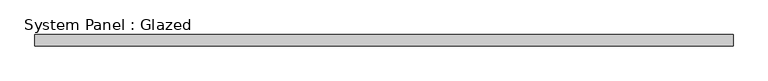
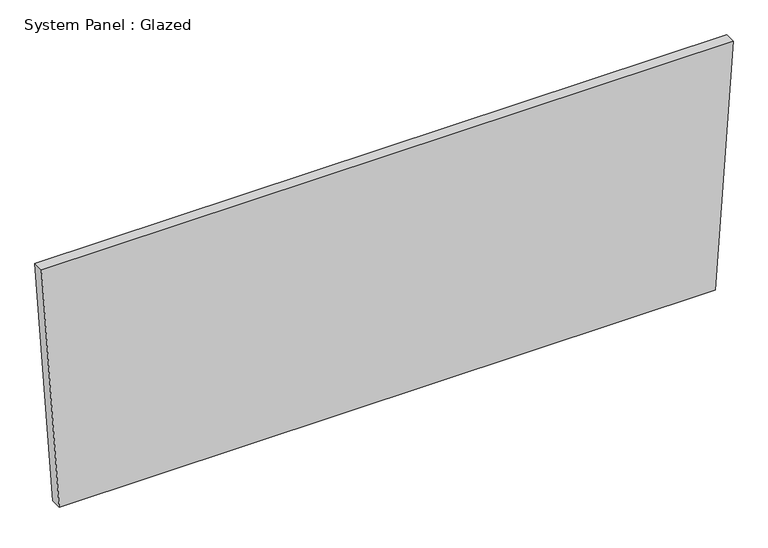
"""IFC4 building model written with IfcOpenShell, lengths in millimetres: plate geometry, System Panel : Glazed."""

from ifc_helpers import new_model, si_unit, frame, origin, place, context, project, spatial, polyline, outline, extrude, source, transform, mapped, element, save


def system_panel_glazed_688557e5(model_context):
    return source(origin(), model_context, "Body", "SweptSolid", [
        extrude(outline(polyline([(0.0, -744.1612568), (0.0, 744.1612568), (582.7548153, 784.3600783), (582.7548153, -784.3600783), (0.0, -744.1612568)])), frame((0.0, 19.05, 0.0), z_axis=(0.0, 1.0, 0.0), x_axis=(0.0, 0.0, 1.0)), (0.0, 0.0, 1.0), 25.4),
    ])


if __name__ == "__main__":
    model = new_model("IFC4")
    model_context = context("Model", 3, world=origin())
    ifc_project = project(units=[si_unit("LENGTHUNIT", "METRE", prefix="MILLI")], contexts=[model_context])
    site = spatial("IfcSite", under=ifc_project)
    building = spatial("IfcBuilding", under=site)
    placement = place(None, origin())
    system_panel_glazed_shape = system_panel_glazed_688557e5(model_context)
    element("IfcPlate", 1, ObjectType="System Panel : Glazed", at=placement, inside=building, context=model_context, shape_type="MappedRepresentation", body=[
        mapped(system_panel_glazed_shape, transform((0.0, 0.0, 0.0), x_axis=(1.0, 0.0, 0.0), y_axis=(0.0, 1.0, 0.0), z_axis=(0.0, 0.0, 1.0))),
    ])
    save(model, "model.ifc")
